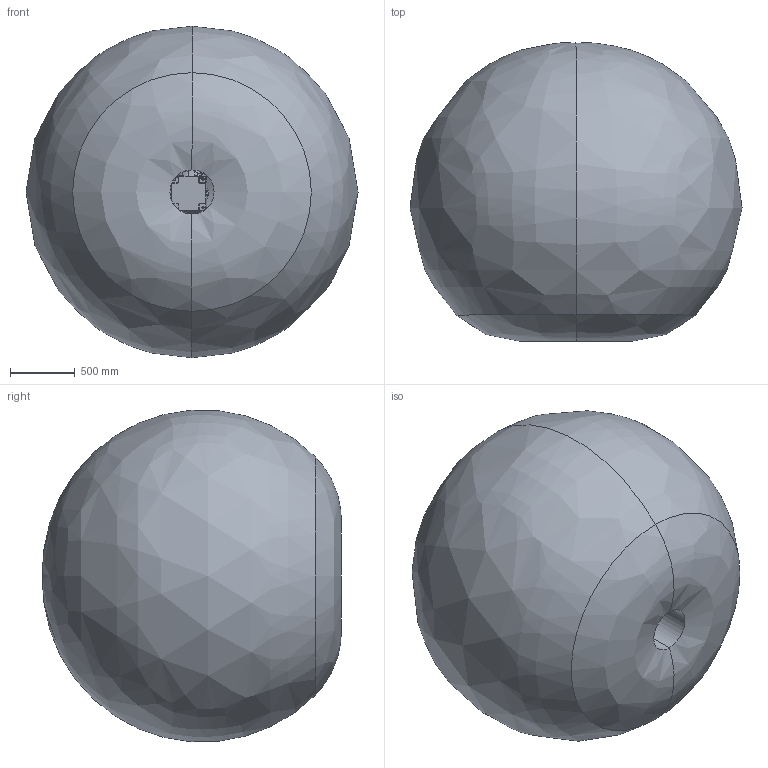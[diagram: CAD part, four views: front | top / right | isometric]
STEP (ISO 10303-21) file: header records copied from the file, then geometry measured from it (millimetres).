
FILE_DESCRIPTION (( 'STEP AP214' ), '1' );
FILE_NAME ('ER8-1300V1-00000 总装部分.STEP', '2023-10-10T02:16:08', ( '' ), ( '' ), 'SwSTEP 2.0', 'SolidWorks 2018', '' );
FILE_SCHEMA (( 'AUTOMOTIVE_DESIGN' ));
Length unit declared in the file: millimetre
Products named in the file (9): 大臂部分^ER8-1300V1-00000 总装部分; 转座部分^ER8-1300V1-00000 总装部分; 小臂部分^ER8-1300V1-00000 总装部分; 底座部分^ER8-1300V1-00000 总装部分; 手腕部分^ER8-1300V1-00000 总装部分; 运动范围图^ER8-1300V1-00000 总装部分; 电机座部分^ER8-1300V1-00000 总装部分; 末端法兰^ER8-1300V1-00000 总装部分; ER8-1300V1-00000 軞蚾窒煦
Assembly tree (8 placements, depth 2):
  ER8-1300V1-00000 軞蚾窒煦
    转座部分^ER8-1300V1-00000 总装部分
    底座部分^ER8-1300V1-00000 总装部分
    大臂部分^ER8-1300V1-00000 总装部分
    电机座部分^ER8-1300V1-00000 总装部分
    手腕部分^ER8-1300V1-00000 总装部分
    末端法兰^ER8-1300V1-00000 总装部分
    小臂部分^ER8-1300V1-00000 总装部分
    运动范围图^ER8-1300V1-00000 总装部分
Bounding box: 2560.29 x 2303.61 x 2555.64 mm (x, y, z)
Volume: 8324270622.9 mm3; surface area: 24182355 mm2
Topology: 43 solids, 61 shells, 4830 faces, 12007 edges, 7546 vertices
Faces by surface type: cylinder 1424, plane 1353, bspline 908, cone 541, torus 508, sphere 96
Entity records: 321171 total; most frequent: CARTESIAN_POINT 162698, ORIENTED_EDGE 23658, DIRECTION 19995, EDGE_CURVE 11831, AXIS2_PLACEMENT_3D 8175, VERTEX_POINT 7509, EDGE_LOOP 5300, FACE_OUTER_BOUND 4830
